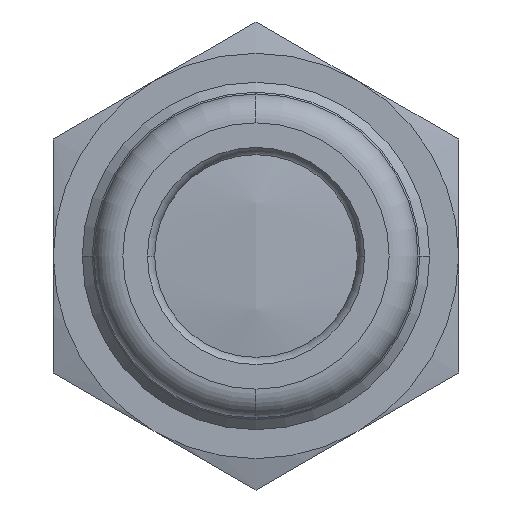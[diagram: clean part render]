
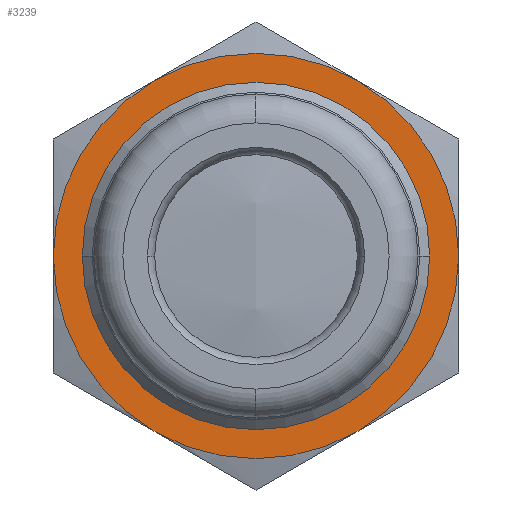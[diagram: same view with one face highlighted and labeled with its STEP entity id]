
A CAD part, left-side view. The second image highlights one B-rep face of the part: STEP entity #3239.
In plain terms, the highlighted planar face has unit normal (-1, 0, 0).
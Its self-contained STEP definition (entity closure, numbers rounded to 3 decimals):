
#436=CARTESIAN_POINT('',(-3.432,0.,0.));
#437=DIRECTION('',(-1.,0.,0.));
#438=DIRECTION('',(0.,-1.,0.));
#439=AXIS2_PLACEMENT_3D('',#436,#437,#438);
#1034=CARTESIAN_POINT('',(-3.432,0.,0.));
#1035=DIRECTION('',(-1.,0.,0.));
#1036=DIRECTION('',(0.,1.,0.));
#1037=AXIS2_PLACEMENT_3D('',#1034,#1035,#1036);
#1066=CARTESIAN_POINT('',(-3.432,0.,0.));
#1067=DIRECTION('',(-1.,0.,0.));
#1068=DIRECTION('',(0.,-0.5,0.866));
#1069=AXIS2_PLACEMENT_3D('',#1066,#1067,#1068);
#1074=CARTESIAN_POINT('',(-3.432,0.,0.));
#1075=DIRECTION('',(-1.,0.,0.));
#1076=DIRECTION('',(0.,-1.,0.003));
#1077=AXIS2_PLACEMENT_3D('',#1074,#1075,#1076);
#1082=DIRECTION('',(0.,0.,-1.));
#1083=VECTOR('',#1082,0.048);
#1084=CARTESIAN_POINT('',(-3.432,-7.,0.024));
#1085=LINE('',#1084,#1083);
#1089=CARTESIAN_POINT('',(-3.432,0.,0.));
#1090=DIRECTION('',(-1.,0.,0.));
#1091=DIRECTION('',(0.,-0.504,-0.864));
#1092=AXIS2_PLACEMENT_3D('',#1089,#1090,#1091);
#1097=DIRECTION('',(0.,0.866,-0.5));
#1098=VECTOR('',#1097,0.068);
#1099=CARTESIAN_POINT('',(-3.432,-3.53,
-6.045));
#1100=LINE('',#1099,#1098);
#1104=CARTESIAN_POINT('',(-3.432,0.,0.));
#1105=DIRECTION('',(-1.,0.,0.));
#1106=DIRECTION('',(0.,0.496,-0.868));
#1107=AXIS2_PLACEMENT_3D('',#1104,#1105,#1106);
#1112=DIRECTION('',(0.,0.866,0.5));
#1113=VECTOR('',#1112,0.068);
#1114=CARTESIAN_POINT('',(-3.432,3.47,
-6.079));
#1115=LINE('',#1114,#1113);
#1119=CARTESIAN_POINT('',(-3.432,0.,0.));
#1120=DIRECTION('',(-1.,0.,0.));
#1121=DIRECTION('',(0.,1.,-0.003));
#1122=AXIS2_PLACEMENT_3D('',#1119,#1120,#1121);
#1127=DIRECTION('',(0.,0.,1.));
#1128=VECTOR('',#1127,0.048);
#1129=CARTESIAN_POINT('',(-3.432,7.,-0.024));
#1130=LINE('',#1129,#1128);
#1134=CARTESIAN_POINT('',(-3.432,0.,0.));
#1135=DIRECTION('',(-1.,0.,0.));
#1136=DIRECTION('',(0.,0.5,0.866));
#1137=AXIS2_PLACEMENT_3D('',#1134,#1135,#1136);
#2140=CARTESIAN_POINT('',(-3.432,-3.5,
6.062));
#2141=CARTESIAN_POINT('',(-3.432,3.5,6.062));
#2142=VERTEX_POINT('',#2140);
#2143=VERTEX_POINT('',#2141);
#2144=CARTESIAN_POINT('',(-3.432,7.,0.024));
#2145=VERTEX_POINT('',#2144);
#2146=CARTESIAN_POINT('',(-3.432,7.,-0.024));
#2147=CARTESIAN_POINT('',(-3.432,3.53,
-6.045));
#2148=VERTEX_POINT('',#2146);
#2149=VERTEX_POINT('',#2147);
#2150=CARTESIAN_POINT('',(-3.432,3.47,
-6.079));
#2151=CARTESIAN_POINT('',(-3.432,-3.47,
-6.079));
#2152=VERTEX_POINT('',#2150);
#2153=VERTEX_POINT('',#2151);
#2154=CARTESIAN_POINT('',(-3.432,-3.53,
-6.045));
#2155=CARTESIAN_POINT('',(-3.432,-7.,-0.024));
#2156=VERTEX_POINT('',#2154);
#2157=VERTEX_POINT('',#2155);
#2158=CARTESIAN_POINT('',(-3.432,-7.,0.024));
#2159=VERTEX_POINT('',#2158);
#2192=CARTESIAN_POINT('',(-3.432,6.,0.));
#2193=CARTESIAN_POINT('',(-3.432,-6.,0.));
#2194=VERTEX_POINT('',#2192);
#2195=VERTEX_POINT('',#2193);
#3208=CARTESIAN_POINT('',(-3.432,0.,0.));
#3209=DIRECTION('',(1.,0.,0.));
#3210=DIRECTION('',(0.,1.,0.));
#3211=AXIS2_PLACEMENT_3D('',#3208,#3209,#3210);
#3212=PLANE('',#3211);
#3214=ORIENTED_EDGE('',*,*,#3213,.F.);
#3216=ORIENTED_EDGE('',*,*,#3215,.F.);
#3218=ORIENTED_EDGE('',*,*,#3217,.T.);
#3220=ORIENTED_EDGE('',*,*,#3219,.F.);
#3222=ORIENTED_EDGE('',*,*,#3221,.T.);
#3224=ORIENTED_EDGE('',*,*,#3223,.F.);
#3226=ORIENTED_EDGE('',*,*,#3225,.T.);
#3228=ORIENTED_EDGE('',*,*,#3227,.F.);
#3230=ORIENTED_EDGE('',*,*,#3229,.T.);
#3232=ORIENTED_EDGE('',*,*,#3231,.F.);
#3233=EDGE_LOOP('',(#3214,#3216,#3218,#3220,#3222,#3224,#3226,#3228,#3230,
#3232));
#3234=FACE_OUTER_BOUND('',#3233,.F.);
#3235=ORIENTED_EDGE('',*,*,#3172,.T.);
#3236=ORIENTED_EDGE('',*,*,#2647,.T.);
#3237=EDGE_LOOP('',(#3235,#3236));
#3238=FACE_BOUND('',#3237,.F.);
#440=CIRCLE('',#439,6.);
#1038=CIRCLE('',#1037,6.);
#1070=CIRCLE('',#1069,7.);
#1078=CIRCLE('',#1077,7.);
#1093=CIRCLE('',#1092,7.);
#1108=CIRCLE('',#1107,7.);
#1123=CIRCLE('',#1122,7.);
#1138=CIRCLE('',#1137,7.);
#2647=EDGE_CURVE('',#2195,#2194,#440,.T.);
#3172=EDGE_CURVE('',#2194,#2195,#1038,.T.);
#3213=EDGE_CURVE('',#2142,#2143,#1070,.T.);
#3215=EDGE_CURVE('',#2159,#2142,#1078,.T.);
#3217=EDGE_CURVE('',#2159,#2157,#1085,.T.);
#3219=EDGE_CURVE('',#2156,#2157,#1093,.T.);
#3221=EDGE_CURVE('',#2156,#2153,#1100,.T.);
#3223=EDGE_CURVE('',#2152,#2153,#1108,.T.);
#3225=EDGE_CURVE('',#2152,#2149,#1115,.T.);
#3227=EDGE_CURVE('',#2148,#2149,#1123,.T.);
#3229=EDGE_CURVE('',#2148,#2145,#1130,.T.);
#3231=EDGE_CURVE('',#2143,#2145,#1138,.T.);
#3239=ADVANCED_FACE('',(#3234,#3238),#3212,.F.);
